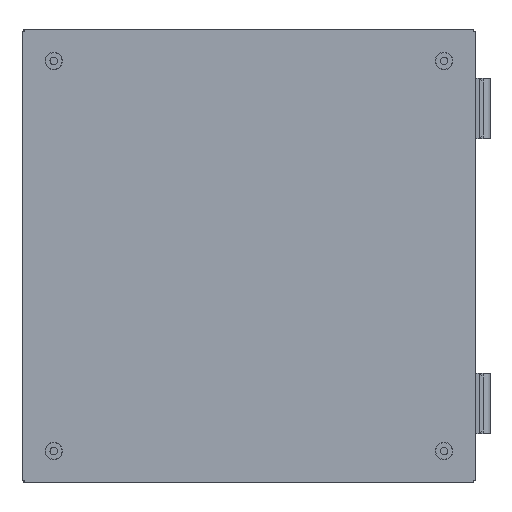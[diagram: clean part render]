
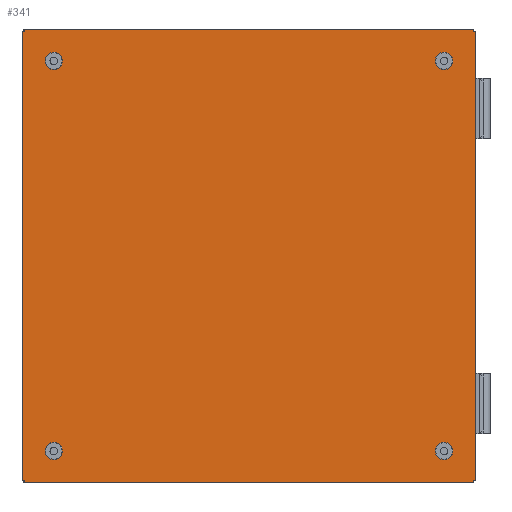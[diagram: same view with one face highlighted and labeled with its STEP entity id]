
A CAD part, front view. The second image highlights one B-rep face of the part: STEP entity #341.
In plain terms, the highlighted planar face has unit normal (0, -1, 0).
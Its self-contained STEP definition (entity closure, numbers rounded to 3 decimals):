
#341 = ADVANCED_FACE('',(#342,#362,#373,#393,#404),#526,.T.);
#342 = FACE_BOUND('',#343,.T.);
#343 = EDGE_LOOP('',(#344,#355));
#344 = ORIENTED_EDGE('',*,*,#345,.F.);
#345 = EDGE_CURVE('',#346,#348,#350,.T.);
#346 = VERTEX_POINT('',#347);
#347 = CARTESIAN_POINT('',(-129.,-1.2,-125.));
#348 = VERTEX_POINT('',#349);
#349 = CARTESIAN_POINT('',(-129.,-1.2,-133.));
#350 = CIRCLE('',#351,4.);
#351 = AXIS2_PLACEMENT_3D('',#352,#353,#354);
#352 = CARTESIAN_POINT('',(-129.,-1.2,-129.));
#353 = DIRECTION('',(0.,-1.,0.));
#354 = DIRECTION('',(0.,0.,1.));
#355 = ORIENTED_EDGE('',*,*,#356,.F.);
#356 = EDGE_CURVE('',#348,#346,#357,.T.);
#357 = CIRCLE('',#358,4.);
#358 = AXIS2_PLACEMENT_3D('',#359,#360,#361);
#359 = CARTESIAN_POINT('',(-129.,-1.2,-129.));
#360 = DIRECTION('',(0.,-1.,0.));
#361 = DIRECTION('',(0.,0.,1.));
#362 = FACE_BOUND('',#363,.T.);
#363 = EDGE_LOOP('',(#364));
#364 = ORIENTED_EDGE('',*,*,#365,.F.);
#365 = EDGE_CURVE('',#366,#366,#368,.T.);
#366 = VERTEX_POINT('',#367);
#367 = CARTESIAN_POINT('',(129.,-1.2,-133.));
#368 = CIRCLE('',#369,4.);
#369 = AXIS2_PLACEMENT_3D('',#370,#371,#372);
#370 = CARTESIAN_POINT('',(129.,-1.2,-129.));
#371 = DIRECTION('',(0.,-1.,0.));
#372 = DIRECTION('',(0.,0.,-1.));
#373 = FACE_BOUND('',#374,.T.);
#374 = EDGE_LOOP('',(#375,#386));
#375 = ORIENTED_EDGE('',*,*,#376,.F.);
#376 = EDGE_CURVE('',#377,#379,#381,.T.);
#377 = VERTEX_POINT('',#378);
#378 = CARTESIAN_POINT('',(129.,-1.2,133.));
#379 = VERTEX_POINT('',#380);
#380 = CARTESIAN_POINT('',(129.,-1.2,125.));
#381 = CIRCLE('',#382,4.);
#382 = AXIS2_PLACEMENT_3D('',#383,#384,#385);
#383 = CARTESIAN_POINT('',(129.,-1.2,129.));
#384 = DIRECTION('',(0.,-1.,0.));
#385 = DIRECTION('',(0.,0.,1.));
#386 = ORIENTED_EDGE('',*,*,#387,.F.);
#387 = EDGE_CURVE('',#379,#377,#388,.T.);
#388 = CIRCLE('',#389,4.);
#389 = AXIS2_PLACEMENT_3D('',#390,#391,#392);
#390 = CARTESIAN_POINT('',(129.,-1.2,129.));
#391 = DIRECTION('',(0.,-1.,0.));
#392 = DIRECTION('',(0.,0.,1.));
#393 = FACE_BOUND('',#394,.T.);
#394 = EDGE_LOOP('',(#395));
#395 = ORIENTED_EDGE('',*,*,#396,.F.);
#396 = EDGE_CURVE('',#397,#397,#399,.T.);
#397 = VERTEX_POINT('',#398);
#398 = CARTESIAN_POINT('',(-129.,-1.2,125.));
#399 = CIRCLE('',#400,4.);
#400 = AXIS2_PLACEMENT_3D('',#401,#402,#403);
#401 = CARTESIAN_POINT('',(-129.,-1.2,129.));
#402 = DIRECTION('',(0.,-1.,0.));
#403 = DIRECTION('',(0.,0.,-1.));
#404 = FACE_BOUND('',#405,.T.);
#405 = EDGE_LOOP('',(#406,#419,#430,#438,#449,#460,#468,#479,#490,#498,
    #509,#520));
#406 = ORIENTED_EDGE('',*,*,#407,.F.);
#407 = EDGE_CURVE('',#408,#410,#412,.T.);
#408 = VERTEX_POINT('',#409);
#409 = CARTESIAN_POINT('',(-148.2,-1.2,148.2));
#410 = VERTEX_POINT('',#411);
#411 = CARTESIAN_POINT('',(-148.574,-1.2,150.));
#412 = B_SPLINE_CURVE_WITH_KNOTS('',3,(#413,#414,#415,#416,#417,#418),
  .UNSPECIFIED.,.F.,.F.,(4,2,4),(0.004,0.005,
    0.006),.UNSPECIFIED.);
#413 = CARTESIAN_POINT('',(-148.2,-1.2,148.2));
#414 = CARTESIAN_POINT('',(-148.287,-1.2,148.495));
#415 = CARTESIAN_POINT('',(-148.371,-1.2,148.79));
#416 = CARTESIAN_POINT('',(-148.498,-1.2,149.39));
#417 = CARTESIAN_POINT('',(-148.543,-1.2,149.695));
#418 = CARTESIAN_POINT('',(-148.574,-1.2,150.));
#419 = ORIENTED_EDGE('',*,*,#420,.T.);
#420 = EDGE_CURVE('',#408,#421,#423,.T.);
#421 = VERTEX_POINT('',#422);
#422 = CARTESIAN_POINT('',(-150.,-1.2,148.574));
#423 = B_SPLINE_CURVE_WITH_KNOTS('',3,(#424,#425,#426,#427,#428,#429),
  .UNSPECIFIED.,.F.,.F.,(4,2,4),(0.004,0.005,
    0.006),.UNSPECIFIED.);
#424 = CARTESIAN_POINT('',(-148.2,-1.2,148.2));
#425 = CARTESIAN_POINT('',(-148.495,-1.2,148.287));
#426 = CARTESIAN_POINT('',(-148.79,-1.2,148.371));
#427 = CARTESIAN_POINT('',(-149.39,-1.2,148.498));
#428 = CARTESIAN_POINT('',(-149.695,-1.2,148.543));
#429 = CARTESIAN_POINT('',(-150.,-1.2,148.574));
#430 = ORIENTED_EDGE('',*,*,#431,.T.);
#431 = EDGE_CURVE('',#421,#432,#434,.T.);
#432 = VERTEX_POINT('',#433);
#433 = CARTESIAN_POINT('',(-150.,-1.2,-148.574));
#434 = LINE('',#435,#436);
#435 = CARTESIAN_POINT('',(-150.,-1.2,1650.));
#436 = VECTOR('',#437,1.);
#437 = DIRECTION('',(0.,0.,-1.));
#438 = ORIENTED_EDGE('',*,*,#439,.F.);
#439 = EDGE_CURVE('',#440,#432,#442,.T.);
#440 = VERTEX_POINT('',#441);
#441 = CARTESIAN_POINT('',(-148.2,-1.2,-148.2));
#442 = B_SPLINE_CURVE_WITH_KNOTS('',3,(#443,#444,#445,#446,#447,#448),
  .UNSPECIFIED.,.F.,.F.,(4,2,4),(0.004,0.005,
    0.006),.UNSPECIFIED.);
#443 = CARTESIAN_POINT('',(-148.2,-1.2,-148.2));
#444 = CARTESIAN_POINT('',(-148.495,-1.2,-148.287));
#445 = CARTESIAN_POINT('',(-148.79,-1.2,-148.371));
#446 = CARTESIAN_POINT('',(-149.39,-1.2,-148.498));
#447 = CARTESIAN_POINT('',(-149.695,-1.2,-148.543));
#448 = CARTESIAN_POINT('',(-150.,-1.2,-148.574));
#449 = ORIENTED_EDGE('',*,*,#450,.T.);
#450 = EDGE_CURVE('',#440,#451,#453,.T.);
#451 = VERTEX_POINT('',#452);
#452 = CARTESIAN_POINT('',(-148.574,-1.2,-150.));
#453 = B_SPLINE_CURVE_WITH_KNOTS('',3,(#454,#455,#456,#457,#458,#459),
  .UNSPECIFIED.,.F.,.F.,(4,2,4),(0.004,0.005,
    0.006),.UNSPECIFIED.);
#454 = CARTESIAN_POINT('',(-148.2,-1.2,-148.2));
#455 = CARTESIAN_POINT('',(-148.287,-1.2,-148.495));
#456 = CARTESIAN_POINT('',(-148.371,-1.2,-148.79));
#457 = CARTESIAN_POINT('',(-148.498,-1.2,-149.39));
#458 = CARTESIAN_POINT('',(-148.543,-1.2,-149.695));
#459 = CARTESIAN_POINT('',(-148.574,-1.2,-150.));
#460 = ORIENTED_EDGE('',*,*,#461,.T.);
#461 = EDGE_CURVE('',#451,#462,#464,.T.);
#462 = VERTEX_POINT('',#463);
#463 = CARTESIAN_POINT('',(148.574,-1.2,-150.));
#464 = LINE('',#465,#466);
#465 = CARTESIAN_POINT('',(-1650.,-1.2,-150.));
#466 = VECTOR('',#467,1.);
#467 = DIRECTION('',(1.,0.,0.));
#468 = ORIENTED_EDGE('',*,*,#469,.F.);
#469 = EDGE_CURVE('',#470,#462,#472,.T.);
#470 = VERTEX_POINT('',#471);
#471 = CARTESIAN_POINT('',(148.2,-1.2,-148.2));
#472 = B_SPLINE_CURVE_WITH_KNOTS('',3,(#473,#474,#475,#476,#477,#478),
  .UNSPECIFIED.,.F.,.F.,(4,2,4),(0.004,0.005,
    0.006),.UNSPECIFIED.);
#473 = CARTESIAN_POINT('',(148.2,-1.2,-148.2));
#474 = CARTESIAN_POINT('',(148.287,-1.2,-148.495));
#475 = CARTESIAN_POINT('',(148.371,-1.2,-148.79));
#476 = CARTESIAN_POINT('',(148.498,-1.2,-149.39));
#477 = CARTESIAN_POINT('',(148.543,-1.2,-149.695));
#478 = CARTESIAN_POINT('',(148.574,-1.2,-150.));
#479 = ORIENTED_EDGE('',*,*,#480,.T.);
#480 = EDGE_CURVE('',#470,#481,#483,.T.);
#481 = VERTEX_POINT('',#482);
#482 = CARTESIAN_POINT('',(150.,-1.2,-148.574));
#483 = B_SPLINE_CURVE_WITH_KNOTS('',3,(#484,#485,#486,#487,#488,#489),
  .UNSPECIFIED.,.F.,.F.,(4,2,4),(0.004,0.005,
    0.006),.UNSPECIFIED.);
#484 = CARTESIAN_POINT('',(148.2,-1.2,-148.2));
#485 = CARTESIAN_POINT('',(148.495,-1.2,-148.287));
#486 = CARTESIAN_POINT('',(148.79,-1.2,-148.371));
#487 = CARTESIAN_POINT('',(149.39,-1.2,-148.498));
#488 = CARTESIAN_POINT('',(149.695,-1.2,-148.543));
#489 = CARTESIAN_POINT('',(150.,-1.2,-148.574));
#490 = ORIENTED_EDGE('',*,*,#491,.T.);
#491 = EDGE_CURVE('',#481,#492,#494,.T.);
#492 = VERTEX_POINT('',#493);
#493 = CARTESIAN_POINT('',(150.,-1.2,148.574));
#494 = LINE('',#495,#496);
#495 = CARTESIAN_POINT('',(150.,-1.2,-1650.));
#496 = VECTOR('',#497,1.);
#497 = DIRECTION('',(0.,0.,1.));
#498 = ORIENTED_EDGE('',*,*,#499,.F.);
#499 = EDGE_CURVE('',#500,#492,#502,.T.);
#500 = VERTEX_POINT('',#501);
#501 = CARTESIAN_POINT('',(148.2,-1.2,148.2));
#502 = B_SPLINE_CURVE_WITH_KNOTS('',3,(#503,#504,#505,#506,#507,#508),
  .UNSPECIFIED.,.F.,.F.,(4,2,4),(0.004,0.005,
    0.006),.UNSPECIFIED.);
#503 = CARTESIAN_POINT('',(148.2,-1.2,148.2));
#504 = CARTESIAN_POINT('',(148.495,-1.2,148.287));
#505 = CARTESIAN_POINT('',(148.79,-1.2,148.371));
#506 = CARTESIAN_POINT('',(149.39,-1.2,148.498));
#507 = CARTESIAN_POINT('',(149.695,-1.2,148.543));
#508 = CARTESIAN_POINT('',(150.,-1.2,148.574));
#509 = ORIENTED_EDGE('',*,*,#510,.T.);
#510 = EDGE_CURVE('',#500,#511,#513,.T.);
#511 = VERTEX_POINT('',#512);
#512 = CARTESIAN_POINT('',(148.574,-1.2,150.));
#513 = B_SPLINE_CURVE_WITH_KNOTS('',3,(#514,#515,#516,#517,#518,#519),
  .UNSPECIFIED.,.F.,.F.,(4,2,4),(0.004,0.005,
    0.006),.UNSPECIFIED.);
#514 = CARTESIAN_POINT('',(148.2,-1.2,148.2));
#515 = CARTESIAN_POINT('',(148.287,-1.2,148.495));
#516 = CARTESIAN_POINT('',(148.371,-1.2,148.79));
#517 = CARTESIAN_POINT('',(148.498,-1.2,149.39));
#518 = CARTESIAN_POINT('',(148.543,-1.2,149.695));
#519 = CARTESIAN_POINT('',(148.574,-1.2,150.));
#520 = ORIENTED_EDGE('',*,*,#521,.T.);
#521 = EDGE_CURVE('',#511,#410,#522,.T.);
#522 = LINE('',#523,#524);
#523 = CARTESIAN_POINT('',(1650.,-1.2,150.));
#524 = VECTOR('',#525,1.);
#525 = DIRECTION('',(-1.,0.,0.));
#526 = PLANE('',#527);
#527 = AXIS2_PLACEMENT_3D('',#528,#529,#530);
#528 = CARTESIAN_POINT('',(0.,-1.2,0.));
#529 = DIRECTION('',(0.,-1.,0.));
#530 = DIRECTION('',(0.,-0.,-1.));
